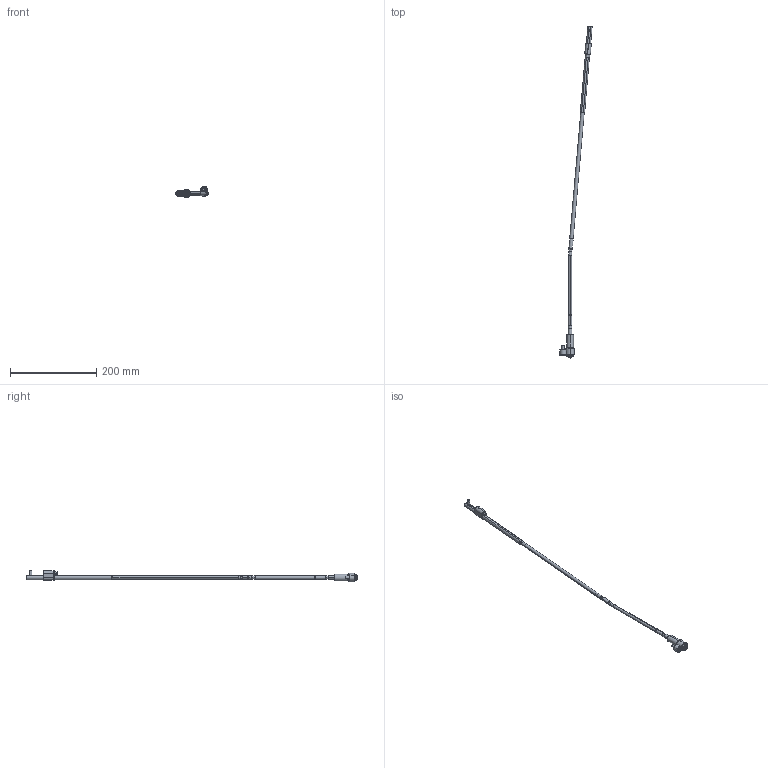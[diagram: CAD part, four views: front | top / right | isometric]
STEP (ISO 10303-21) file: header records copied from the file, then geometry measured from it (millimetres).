
FILE_DESCRIPTION (( 'STEP AP214' ), '1' );
FILE_NAME ('WL080125-INJ 5°.STEP', '2021-03-19T15:31:44', ( '' ), ( '' ), 'SwSTEP 2.0', 'SolidWorks 2019', '' );
FILE_SCHEMA (( 'AUTOMOTIVE_DESIGN' ));
Length unit declared in the file: millimetre
Products named in the file (17): Web-WL08-A1; Web-WL08-F01; WL080125-INJ 5°; WL080100-D; WL080100-C; Web-WP08-1; 9DR2206-TOR; WL080100-B1_WL0800FF-1; 3IMAN4X2-150_con sello; WL080100-B_WL0800FF; 1DIN912616_DIN 912 M6 x 16 --- 16C; WL080100-E; 1DIN912545_DIN 912 M5 x 50 --- 50C; Web-WL08-A3; Web-WL08XX-A7_OFF-WL080125-5; Web-WL08-F00.SLDPRT; Web-WL08-A2
Assembly tree (16 placements, depth 3):
  WL080125-INJ 5°
    Web-WP08-1
    Web-WL08XX-A7_OFF-WL080125-5
    Web-WL08-A3
    Web-WL08-A2
    Web-WL08-A1
    WL080100-D
    WL080100-C
    WL080100-B_WL0800FF
      WL080100-B1_WL0800FF-1
      3IMAN4X2-150_con sello
    WL080100-E
    9DR2206-TOR
    Web-WL08-F00.SLDPRT
      Web-WL08-F01
      1DIN912545_DIN 912 M5 x 50 --- 50C
      1DIN912616_DIN 912 M6 x 16 --- 16C
Bounding box: 74.99 x 770.4 x 26.9 mm (x, y, z)
Volume: 58701.8 mm3; surface area: 34416.1 mm2
Topology: 15 solids, 15 shells, 424 faces, 888 edges, 516 vertices
Faces by surface type: plane 132, cylinder 128, cone 116, torus 48
Entity records: 13492 total; most frequent: DIRECTION 2218, CARTESIAN_POINT 2045, ORIENTED_EDGE 1756, AXIS2_PLACEMENT_3D 921, EDGE_CURVE 878, VERTEX_POINT 516, CIRCLE 476, EDGE_LOOP 468
